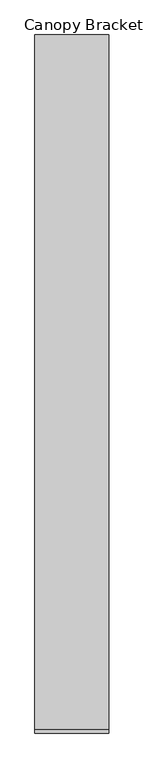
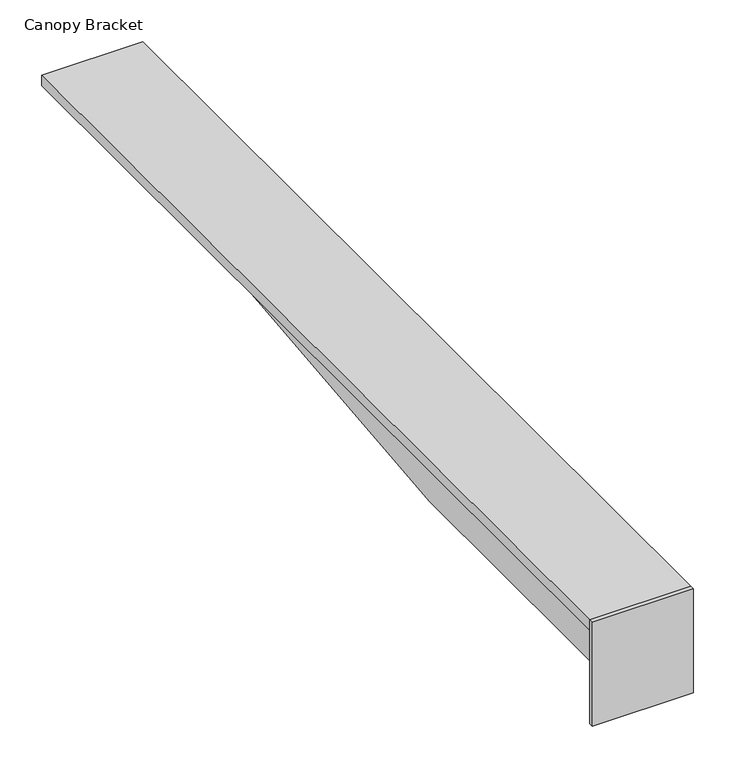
"""IFC4 building model written with IfcOpenShell, lengths in millimetres: proxy geometry, Sunshade Bracket : Canopy Bracket."""

from ifc_helpers import new_model, si_unit, frame, origin, place, context, project, spatial, polyline, outline, extrude, source, transform, mapped, element, save


def canopy_bracket_2de411db(model_context):
    return source(origin(), model_context, "Body", "SweptSolid", [
        extrude(outline(polyline([(69.2782424, -2371.725), (-70.4217576, -2371.725), (-70.4217576, -2365.375), (69.2782424, -2365.375), (69.2782424, -2371.725)])), frame((0.0, 0.0, 3200.4), z_axis=(0.0, 0.0, 1.0), x_axis=(1.0, 0.0, 0.0)), (0.0, 0.0, 1.0), 152.4),
        extrude(outline(polyline([(-1050.925, 3336.925), (-1050.925, 3286.2721139), (-1867.9435885, 3200.4), (-2365.375, 3200.4), (-2365.375, 3336.925), (-1050.925, 3336.925)])), frame((-4.7625, 0.0, 0.0), z_axis=(1.0, 0.0, 0.0), x_axis=(0.0, 1.0, 0.0)), (0.0, 0.0, 1.0), 9.525),
        extrude(outline(polyline([(-70.4217576, -1050.925), (69.2782424, -1050.925), (69.2782424, -2365.375), (-70.4217576, -2365.375), (-70.4217576, -1050.925)])), frame((0.0, 0.0, 3336.925), z_axis=(0.0, 0.0, 1.0), x_axis=(1.0, 0.0, 0.0)), (0.0, 0.0, 1.0), 15.875),
    ])


if __name__ == "__main__":
    model = new_model("IFC4")
    model_context = context("Model", 3, world=origin())
    ifc_project = project(units=[si_unit("LENGTHUNIT", "METRE", prefix="MILLI")], contexts=[model_context])
    site = spatial("IfcSite", under=ifc_project)
    building = spatial("IfcBuilding", under=site)
    placement = place(None, origin())
    canopy_bracket_shape = canopy_bracket_2de411db(model_context)
    element("IfcBuildingElementProxy", 1, Name="Sunshade Bracket : Canopy Bracket", ObjectType="Sunshade Bracket : Canopy Bracket", at=placement, inside=building, context=model_context, shape_type="MappedRepresentation", body=[
        mapped(canopy_bracket_shape, transform((0.0, 0.0, 0.0), x_axis=(1.0, 0.0, 0.0), y_axis=(0.0, 1.0, 0.0), z_axis=(0.0, 0.0, 1.0))),
    ])
    save(model, "model.ifc")
